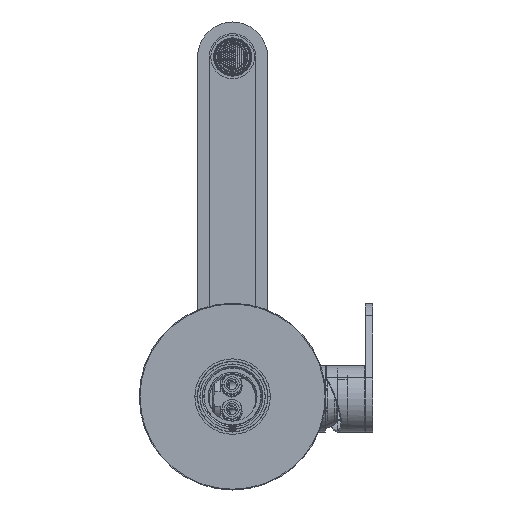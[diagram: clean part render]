
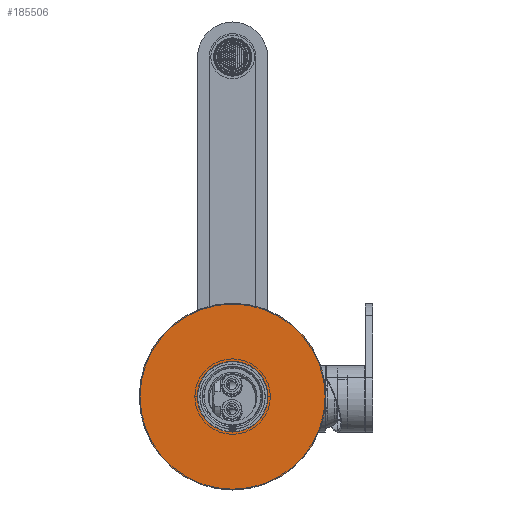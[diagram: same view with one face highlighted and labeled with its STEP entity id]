
A CAD part, top view. The second image highlights one B-rep face of the part: STEP entity #185506.
In plain terms, the highlighted planar face has unit normal (0, 0, 1).
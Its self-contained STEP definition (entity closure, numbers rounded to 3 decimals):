
#185207=CARTESIAN_POINT('',(0.,0.,765.));
#185208=DIRECTION('',(0.,0.,-1.));
#185209=DIRECTION('',(-1.,0.,0.));
#185210=AXIS2_PLACEMENT_3D('',#185207,#185208,#185209);
#185212=CARTESIAN_POINT('',(0.,0.,765.));
#185213=DIRECTION('',(0.,0.,-1.));
#185214=DIRECTION('',(1.,0.,0.));
#185215=AXIS2_PLACEMENT_3D('',#185212,#185213,#185214);
#185217=CARTESIAN_POINT('',(0.,0.,765.));
#185218=DIRECTION('',(0.,0.,1.));
#185219=DIRECTION('',(-1.,0.,0.));
#185220=AXIS2_PLACEMENT_3D('',#185217,#185218,#185219);
#185222=CARTESIAN_POINT('',(0.,0.,765.));
#185223=DIRECTION('',(0.,0.,1.));
#185224=DIRECTION('',(1.,0.,0.));
#185225=AXIS2_PLACEMENT_3D('',#185222,#185223,#185224);
#185273=CARTESIAN_POINT('',(-22.75,0.,765.));
#185274=CARTESIAN_POINT('',(22.75,0.,765.));
#185275=VERTEX_POINT('',#185273);
#185276=VERTEX_POINT('',#185274);
#185277=CARTESIAN_POINT('',(-60.,0.,765.));
#185278=CARTESIAN_POINT('',(60.,0.,765.));
#185279=VERTEX_POINT('',#185277);
#185280=VERTEX_POINT('',#185278);
#185491=CARTESIAN_POINT('',(0.,0.,765.));
#185492=DIRECTION('',(0.,0.,-1.));
#185493=DIRECTION('',(-1.,0.,0.));
#185494=AXIS2_PLACEMENT_3D('',#185491,#185492,#185493);
#185495=PLANE('',#185494);
#185496=ORIENTED_EDGE('',*,*,#185471,.T.);
#185497=ORIENTED_EDGE('',*,*,#185485,.T.);
#185498=EDGE_LOOP('',(#185496,#185497));
#185499=FACE_OUTER_BOUND('',#185498,.F.);
#185501=ORIENTED_EDGE('',*,*,#185500,.T.);
#185503=ORIENTED_EDGE('',*,*,#185502,.T.);
#185504=EDGE_LOOP('',(#185501,#185503));
#185505=FACE_BOUND('',#185504,.F.);
#185506=ADVANCED_FACE('',(#185499,#185505),#185495,.F.);
#185211=CIRCLE('',#185210,60.);
#185216=CIRCLE('',#185215,60.);
#185221=CIRCLE('',#185220,22.75);
#185226=CIRCLE('',#185225,22.75);
#185471=EDGE_CURVE('',#185279,#185280,#185211,.T.);
#185485=EDGE_CURVE('',#185280,#185279,#185216,.T.);
#185500=EDGE_CURVE('',#185275,#185276,#185221,.T.);
#185502=EDGE_CURVE('',#185276,#185275,#185226,.T.);
